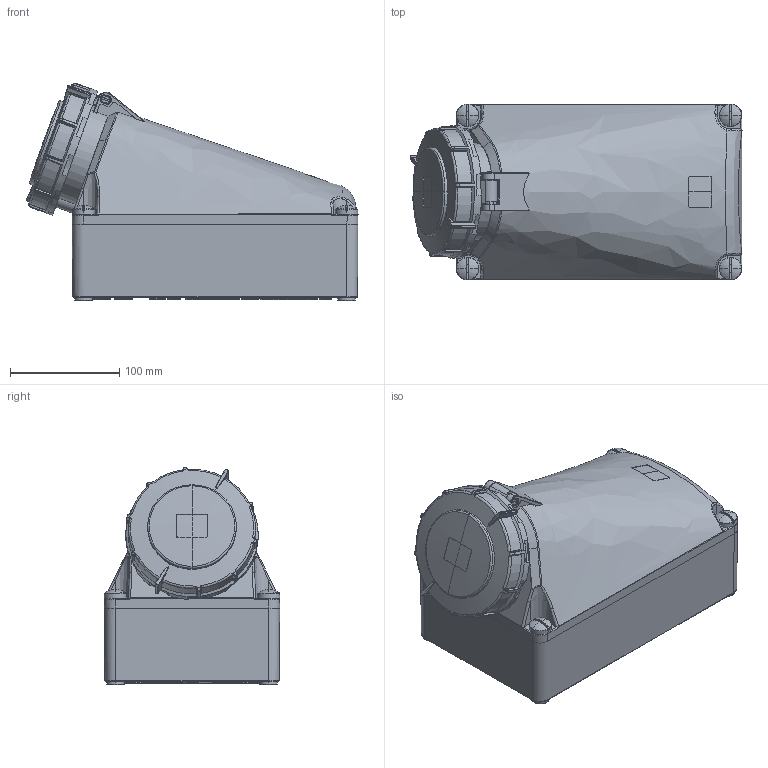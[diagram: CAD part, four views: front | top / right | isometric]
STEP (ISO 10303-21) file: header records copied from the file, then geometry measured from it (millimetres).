
FILE_DESCRIPTION (( 'STEP AP203' ), '1' );
FILE_NAME ('DIS51512557 (WS 5p 125ﾀ 400ﾂ IP67).STEP', '2024-08-30T09:00:20', ( '' ), ( '' ), 'SwSTEP 2.0', 'SolidWorks 2022', '' );
FILE_SCHEMA (( 'CONFIG_CONTROL_DESIGN' ));
Products named in the file (1): DIS51512557 (WS 5p 125А 400В IP67)
Bounding box: 303.24 x 160.43 x 198.68 mm (x, y, z)
Volume: 5248114.2 mm3; surface area: 248283.1 mm2
Topology: 3 solids, 16 shells, 1658 faces, 4122 edges, 2499 vertices
Faces by surface type: cylinder 564, plane 420, torus 270, bspline 210, cone 115, sphere 79
Entity records: 73940 total; most frequent: CARTESIAN_POINT 37165, ORIENTED_EDGE 8098, DIRECTION 7268, EDGE_CURVE 4049, AXIS2_PLACEMENT_3D 3110, VERTEX_POINT 2487, EDGE_LOOP 1742, CIRCLE 1661
